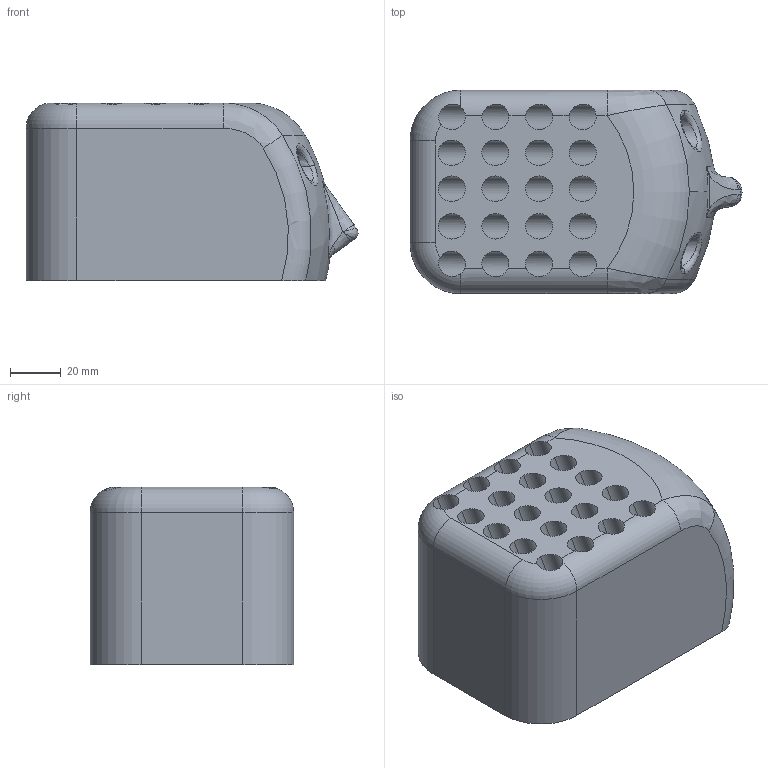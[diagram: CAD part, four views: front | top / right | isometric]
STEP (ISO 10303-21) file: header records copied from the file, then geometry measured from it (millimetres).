
FILE_DESCRIPTION(('CATIA V5 STEP Exchange','CAx-IF Rec.Pracs.--- Model Styling and Organization---1.5--- 2016-08-15','CAx-IF Rec.Pracs.---Supplemental Geometry---1.0---2011-11-01','CAx-IF Rec.Pracs.--- Composite Materials ---3.4---2017-06-13','CAx-IF Rec.Pracs.---Tessellated 3D Geometry---1.0---2015-12-17'),'2;1');
FILE_NAME('C:\Users\JOSE\F4E Laptop Dropbox\Jose Pacheco\GCODE\pencil head\pencil head STEP.stp','2022-05-09T10:44:48+00:00',('none'),('none'),'CATIA Version 5-6 Release 2021','CATIA V5 STEP AP242 v2','none');
FILE_SCHEMA(('AP242_MANAGED_MODEL_BASED_3D_ENGINEERING_MIM_LF {1 0 10303 442 1 1 4}'));
Length unit declared in the file: millimetre
Products named in the file (1): Part1
Bounding box: 130.59 x 80 x 70 mm (x, y, z)
Volume: 489160.4 mm3; surface area: 86939.5 mm2
Topology: 1 solids, 1 shells, 117 faces, 281 edges, 175 vertices
Faces by surface type: cylinder 45, plane 27, bspline 27, torus 10, extrusion 4, sphere 2, cone 2
Entity records: 8361 total; most frequent: CARTESIAN_POINT 6226, ORIENTED_EDGE 552, EDGE_CURVE 276, DIRECTION 197, B_SPLINE_CURVE_WITH_KNOTS 183, VERTEX_POINT 175, EDGE_LOOP 131, ADVANCED_FACE 117
